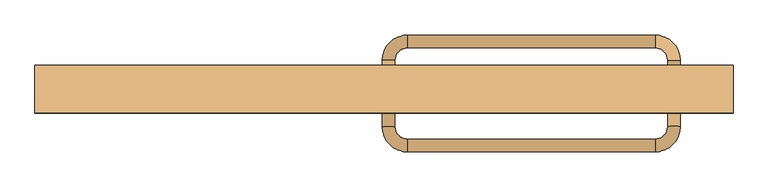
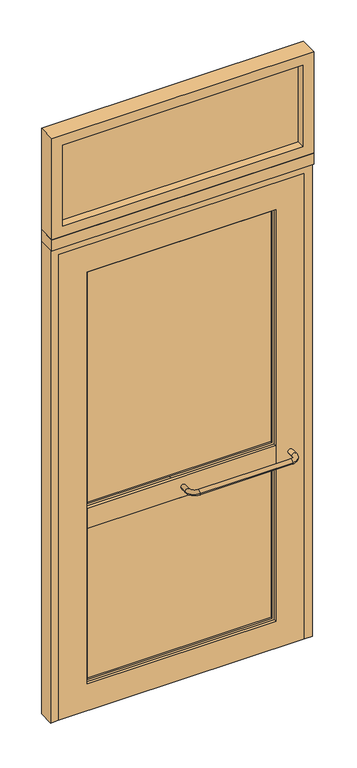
"""IFC4 building model written with IfcOpenShell, lengths in millimetres: door geometry, A3 Puerta batiente exterior VF superior : A3.1 Puerta batiente simple-exterior 110X260."""

from ifc_helpers import new_model, si_unit, point, frame, origin, place, context, project, spatial, polyline, circle_curve, ellipse_curve, trimmed, outline, extrude, source, transform, mapped, element, save
from ifc_brep_helpers import plane_surface, cylinder_surface, revolved_surface, advanced_brep


def door_cf841cee(model_context):
    return source(origin(), model_context, "Body", "SolidModel", [
        advanced_brep(
        [(17.0, 11.0, 855.0), (-3.0, 11.0, 855.0), (17.0, 41.0, 855.0), (-3.0, 41.0, 855.0), (37.0, 61.0, 855.0), (37.0, 81.0, 855.0), (427.0, 61.0, 855.0), (427.0, 81.0, 855.0), (447.0, 41.0, 855.0), (467.0, 41.0, 855.0), (447.0, 11.0, 855.0), (467.0, 11.0, 855.0)],
        [
            (0, 1, circle_curve(frame((7.0, 11.0, 855.0), z_axis=(0.0, -1.0, 0.0), x_axis=(-1.0, 0.0, 0.0)), 10.0)),
            (1, 0, circle_curve(frame((7.0, 11.0, 855.0), z_axis=(0.0, -1.0, 0.0), x_axis=(-1.0, 0.0, 0.0)), 10.0)),
            (0, 2),
            (2, 3, circle_curve(frame((7.0, 41.0, 855.0), z_axis=(0.0, -1.0, 0.0), x_axis=(-1.0, 0.0, 0.0)), 10.0)),
            (3, 1),
            (3, 2, circle_curve(frame((7.0, 41.0, 855.0), z_axis=(0.0, -1.0, 0.0), x_axis=(-1.0, 0.0, 0.0)), 10.0)),
            (4, 5, circle_curve(frame((37.0, 71.0, 855.0), z_axis=(-1.0, 0.0, 0.0), x_axis=(0.0, 1.0, 0.0)), 10.0)),
            (5, 3, circle_curve(frame((37.0, 41.0, 855.0), z_axis=(0.0, 0.0, 1.0), x_axis=(-1.0, 0.0, 0.0)), 40.0)),
            (2, 4, circle_curve(frame((37.0, 41.0, 855.0), z_axis=(0.0, 0.0, -1.0), x_axis=(-1.0, 0.0, 0.0)), 20.0)),
            (5, 4, circle_curve(frame((37.0, 71.0, 855.0), z_axis=(-1.0, 0.0, 0.0), x_axis=(0.0, 1.0, 0.0)), 10.0)),
            (4, 6),
            (6, 7, circle_curve(frame((427.0, 71.0, 855.0), z_axis=(-1.0, 0.0, 0.0), x_axis=(0.0, 1.0, 0.0)), 10.0)),
            (7, 5),
            (7, 6, circle_curve(frame((427.0, 71.0, 855.0), z_axis=(-1.0, 0.0, 0.0), x_axis=(0.0, 1.0, 0.0)), 10.0)),
            (8, 9, circle_curve(frame((457.0, 41.0, 855.0), z_axis=(0.0, 1.0, 0.0), x_axis=(1.0, 0.0, 0.0)), 10.0)),
            (9, 7, circle_curve(frame((427.0, 41.0, 855.0), z_axis=(0.0, 0.0, 1.0), x_axis=(0.0, 1.0, 0.0)), 40.0)),
            (6, 8, circle_curve(frame((427.0, 41.0, 855.0), z_axis=(0.0, 0.0, -1.0), x_axis=(0.0, 1.0, 0.0)), 20.0)),
            (9, 8, circle_curve(frame((457.0, 41.0, 855.0), z_axis=(0.0, 1.0, 0.0), x_axis=(1.0, 0.0, 0.0)), 10.0)),
            (10, 11, circle_curve(frame((457.0, 11.0, 855.0), z_axis=(0.0, -1.0, 0.0), x_axis=(1.0, 0.0, 0.0)), 10.0)),
            (11, 10, circle_curve(frame((457.0, 11.0, 855.0), z_axis=(0.0, -1.0, 0.0), x_axis=(1.0, 0.0, 0.0)), 10.0)),
            (8, 10),
            (11, 9),
        ],
        [
            plane_surface(frame((7.0, 11.0, 855.0), z_axis=(0.0, -1.0, 0.0), x_axis=(0.0, 0.0, 1.0))),
            cylinder_surface(frame((7.0, 11.0, 855.0), z_axis=(0.0, -1.0, 0.0), x_axis=(-1.0, 0.0, 0.0)), 10.0),
            revolved_surface(trimmed(ellipse_curve(frame((7.0, 41.0, 855.0), z_axis=(0.0, 1.0, 0.0), x_axis=(-1.0, 0.0, 0.0)), 10.0, 10.0), [point((-3.0, 41.0, 855.0))], [point((17.0, 41.0, 855.0))], True, "CARTESIAN"), (37.0, 41.0, 855.0), (0.0, 0.0, 1.0)),
            revolved_surface(trimmed(ellipse_curve(frame((7.0, 41.0, 855.0), z_axis=(0.0, 1.0, 0.0), x_axis=(-1.0, 0.0, 0.0)), 10.0, 10.0), [point((17.0, 41.0, 855.0))], [point((-3.0, 41.0, 855.0))], True, "CARTESIAN"), (37.0, 41.0, 855.0), (0.0, 0.0, 1.0)),
            cylinder_surface(frame((37.0, 71.0, 855.0), z_axis=(-1.0, 0.0, 0.0), x_axis=(0.0, 1.0, 0.0)), 10.0),
            revolved_surface(trimmed(ellipse_curve(frame((427.0, 71.0, 855.0), z_axis=(1.0, 0.0, 0.0), x_axis=(0.0, 1.0, 0.0)), 10.0, 10.0), [point((427.0, 81.0, 855.0))], [point((427.0, 61.0, 855.0))], True, "CARTESIAN"), (427.0, 41.0, 855.0), (0.0, 0.0, 1.0)),
            revolved_surface(trimmed(ellipse_curve(frame((427.0, 71.0, 855.0), z_axis=(1.0, 0.0, 0.0), x_axis=(0.0, 1.0, 0.0)), 10.0, 10.0), [point((427.0, 61.0, 855.0))], [point((427.0, 81.0, 855.0))], True, "CARTESIAN"), (427.0, 41.0, 855.0), (0.0, 0.0, 1.0)),
            plane_surface(frame((457.0, 11.0, 855.0), z_axis=(0.0, -1.0, 0.0), x_axis=(0.0, 0.0, 1.0))),
            cylinder_surface(frame((457.0, 41.0, 855.0), z_axis=(0.0, 1.0, 0.0), x_axis=(1.0, 0.0, 0.0)), 10.0),
        ],
        [
            (0, [[1, 2]]),
            (1, [[3, 4, 5, -1]]),
            (1, [[-5, 6, -3, -2]]),
            (2, [[7, 8, -4, 9]]),
            (3, [[10, -9, -6, -8]]),
            (4, [[11, 12, 13, -7]]),
            (4, [[-13, 14, -11, -10]]),
            (5, [[15, 16, -12, 17]]),
            (6, [[18, -17, -14, -16]]),
            (7, [[19, 20]]),
            (8, [[21, -20, 22, -15]]),
            (8, [[-22, -19, -21, -18]]),
        ],
    ),
        advanced_brep(
        [(17.0, -33.0, 855.0), (-3.0, -33.0, 855.0), (-3.0, -63.0, 855.0), (17.0, -63.0, 855.0), (37.0, -83.0, 855.0), (37.0, -103.0, 855.0), (427.0, -103.0, 855.0), (427.0, -83.0, 855.0), (447.0, -63.0, 855.0), (467.0, -63.0, 855.0), (447.0, -33.0, 855.0), (467.0, -33.0, 855.0)],
        [
            (0, 1, circle_curve(frame((7.0, -33.0, 855.0), z_axis=(0.0, 1.0, 0.0), x_axis=(-1.0, 0.0, 0.0)), 10.0)),
            (1, 0, circle_curve(frame((7.0, -33.0, 855.0), z_axis=(0.0, 1.0, 0.0), x_axis=(-1.0, 0.0, 0.0)), 10.0)),
            (1, 2),
            (2, 3, circle_curve(frame((7.0, -63.0, 855.0), z_axis=(0.0, 1.0, 0.0), x_axis=(-1.0, 0.0, 0.0)), 10.0)),
            (3, 0),
            (3, 2, circle_curve(frame((7.0, -63.0, 855.0), z_axis=(0.0, 1.0, 0.0), x_axis=(-1.0, 0.0, 0.0)), 10.0)),
            (4, 3, circle_curve(frame((37.0, -63.0, 855.0), z_axis=(0.0, 0.0, -1.0), x_axis=(-1.0, 0.0, 0.0)), 20.0)),
            (2, 5, circle_curve(frame((37.0, -63.0, 855.0), z_axis=(0.0, 0.0, 1.0), x_axis=(-1.0, 0.0, 0.0)), 40.0)),
            (5, 4, circle_curve(frame((37.0, -93.0, 855.0), z_axis=(-1.0, 0.0, 0.0), x_axis=(0.0, -1.0, 0.0)), 10.0)),
            (4, 5, circle_curve(frame((37.0, -93.0, 855.0), z_axis=(-1.0, 0.0, 0.0), x_axis=(0.0, -1.0, 0.0)), 10.0)),
            (5, 6),
            (6, 7, circle_curve(frame((427.0, -93.0, 855.0), z_axis=(-1.0, 0.0, 0.0), x_axis=(0.0, -1.0, 0.0)), 10.0)),
            (7, 4),
            (7, 6, circle_curve(frame((427.0, -93.0, 855.0), z_axis=(-1.0, 0.0, 0.0), x_axis=(0.0, -1.0, 0.0)), 10.0)),
            (8, 7, circle_curve(frame((427.0, -63.0, 855.0), z_axis=(0.0, 0.0, -1.0), x_axis=(0.0, -1.0, 0.0)), 20.0)),
            (6, 9, circle_curve(frame((427.0, -63.0, 855.0), z_axis=(0.0, 0.0, 1.0), x_axis=(0.0, -1.0, 0.0)), 40.0)),
            (9, 8, circle_curve(frame((457.0, -63.0, 855.0), z_axis=(0.0, -1.0, 0.0), x_axis=(1.0, 0.0, 0.0)), 10.0)),
            (8, 9, circle_curve(frame((457.0, -63.0, 855.0), z_axis=(0.0, -1.0, 0.0), x_axis=(1.0, 0.0, 0.0)), 10.0)),
            (10, 11, circle_curve(frame((457.0, -33.0, 855.0), z_axis=(0.0, 1.0, 0.0), x_axis=(1.0, 0.0, 0.0)), 10.0)),
            (11, 10, circle_curve(frame((457.0, -33.0, 855.0), z_axis=(0.0, 1.0, 0.0), x_axis=(1.0, 0.0, 0.0)), 10.0)),
            (9, 11),
            (10, 8),
        ],
        [
            plane_surface(frame((7.0, -33.0, 855.0), z_axis=(0.0, 1.0, 0.0), x_axis=(0.0, 0.0, 1.0))),
            cylinder_surface(frame((7.0, -33.0, 855.0), z_axis=(0.0, 1.0, 0.0), x_axis=(-1.0, 0.0, 0.0)), 10.0),
            revolved_surface(trimmed(ellipse_curve(frame((7.0, -63.0, 855.0), z_axis=(0.0, 1.0, 0.0), x_axis=(-1.0, 0.0, 0.0)), 10.0, 10.0), [point((-3.0, -63.0, 855.0))], [point((17.0, -63.0, 855.0))], True, "CARTESIAN"), (37.0, -63.0, 855.0), (0.0, 0.0, 1.0)),
            revolved_surface(trimmed(ellipse_curve(frame((7.0, -63.0, 855.0), z_axis=(0.0, 1.0, 0.0), x_axis=(-1.0, 0.0, 0.0)), 10.0, 10.0), [point((17.0, -63.0, 855.0))], [point((-3.0, -63.0, 855.0))], True, "CARTESIAN"), (37.0, -63.0, 855.0), (0.0, 0.0, 1.0)),
            cylinder_surface(frame((37.0, -93.0, 855.0), z_axis=(-1.0, 0.0, 0.0), x_axis=(0.0, -1.0, 0.0)), 10.0),
            revolved_surface(trimmed(ellipse_curve(frame((427.0, -93.0, 855.0), z_axis=(-1.0, 0.0, 0.0), x_axis=(0.0, -1.0, 0.0)), 10.0, 10.0), [point((427.0, -103.0, 855.0))], [point((427.0, -83.0, 855.0))], True, "CARTESIAN"), (427.0, -63.0, 855.0), (0.0, 0.0, 1.0)),
            revolved_surface(trimmed(ellipse_curve(frame((427.0, -93.0, 855.0), z_axis=(-1.0, 0.0, 0.0), x_axis=(0.0, -1.0, 0.0)), 10.0, 10.0), [point((427.0, -83.0, 855.0))], [point((427.0, -103.0, 855.0))], True, "CARTESIAN"), (427.0, -63.0, 855.0), (0.0, 0.0, 1.0)),
            plane_surface(frame((457.0, -33.0, 855.0), z_axis=(0.0, 1.0, 0.0), x_axis=(0.0, 0.0, 1.0))),
            cylinder_surface(frame((457.0, -63.0, 855.0), z_axis=(0.0, -1.0, 0.0), x_axis=(1.0, 0.0, 0.0)), 10.0),
        ],
        [
            (0, [[1, 2]]),
            (1, [[-2, 3, 4, 5]]),
            (1, [[-1, -5, 6, -3]]),
            (2, [[7, -4, 8, 9]]),
            (3, [[-8, -6, -7, 10]]),
            (4, [[-9, 11, 12, 13]]),
            (4, [[-10, -13, 14, -11]]),
            (5, [[15, -12, 16, 17]]),
            (6, [[-16, -14, -15, 18]]),
            (7, [[19, 20]]),
            (8, [[-17, 21, -19, 22]]),
            (8, [[-18, -22, -20, -21]]),
        ],
    ),
        extrude(outline(polyline([(550.0, 33.0), (550.0, -42.0), (-550.0, -42.0), (-550.0, 33.0), (550.0, 33.0)])), frame((0.0, 0.0, 2100.0), z_axis=(0.0, 0.0, 1.0), x_axis=(1.0, 0.0, 0.0)), (0.0, 0.0, 1.0), 50.0),
        extrude(outline(polyline([(2100.0, 550.0), (2100.0, -550.0), (0.0, -550.0), (0.0, -517.0), (2067.0, -517.0), (2067.0, 517.0), (0.0, 517.0), (0.0, 550.0), (2100.0, 550.0)])), frame((0.0, -33.0, 0.0), z_axis=(0.0, 1.0, 0.0), x_axis=(0.0, 0.0, 1.0)), (0.0, 0.0, 1.0), 66.0),
        extrude(outline(polyline([(2067.0, -517.0), (0.0, -517.0), (0.0, 517.0), (2067.0, 517.0), (2067.0, -517.0)]), holes=[polyline([(1947.0, -397.0), (1947.0, 397.0), (120.0, 397.0), (120.0, -397.0), (1947.0, -397.0)])]), frame((0.0, -33.0, 0.0), z_axis=(0.0, 1.0, 0.0), x_axis=(0.0, 0.0, 1.0)), (0.0, 0.0, 1.0), 44.0),
        extrude(outline(polyline([(397.0, 11.0), (397.0, -33.0), (-397.0, -33.0), (-397.0, 11.0), (397.0, 11.0)])), frame((0.0, 0.0, 810.0), z_axis=(0.0, 0.0, 1.0), x_axis=(1.0, 0.0, 0.0)), (0.0, 0.0, 1.0), 90.0),
        extrude(outline(polyline([(1947.0, -397.0), (900.0, -397.0), (900.0, 397.0), (1947.0, 397.0), (1947.0, -397.0)]), holes=[polyline([(1937.0, -387.0), (1937.0, 387.0), (910.0, 387.0), (910.0, -387.0), (1937.0, -387.0)])]), frame((0.0, -21.0, 0.0), z_axis=(0.0, 1.0, 0.0), x_axis=(0.0, 0.0, 1.0)), (0.0, 0.0, 1.0), 20.0),
        extrude(outline(polyline([(810.0, -397.0), (120.0, -397.0), (120.0, 397.0), (810.0, 397.0), (810.0, -397.0)]), holes=[polyline([(800.0, -387.0), (800.0, 387.0), (130.0, 387.0), (130.0, -387.0), (800.0, -387.0)])]), frame((0.0, -21.0, 0.0), z_axis=(0.0, 1.0, 0.0), x_axis=(0.0, 0.0, 1.0)), (0.0, 0.0, 1.0), 20.0),
        extrude(outline(polyline([(387.0, -8.0), (387.0, -14.0), (-387.0, -14.0), (-387.0, -8.0), (387.0, -8.0)])), frame((0.0, 0.0, 910.0), z_axis=(0.0, 0.0, 1.0), x_axis=(1.0, 0.0, 0.0)), (0.0, 0.0, 1.0), 1027.0),
        extrude(outline(polyline([(387.0, -8.0), (387.0, -14.0), (-387.0, -14.0), (-387.0, -8.0), (387.0, -8.0)])), frame((0.0, 0.0, 130.0), z_axis=(0.0, 0.0, 1.0), x_axis=(1.0, 0.0, 0.0)), (0.0, 0.0, 1.0), 670.0),
        extrude(outline(polyline([(505.0, -1.5), (505.0, -7.5), (-505.0, -7.5), (-505.0, -1.5), (505.0, -1.5)])), frame((0.0, 0.0, 2195.0), z_axis=(0.0, 0.0, 1.0), x_axis=(1.0, 0.0, 0.0)), (0.0, 0.0, 1.0), 360.0),
        extrude(outline(polyline([(2600.0, -550.0), (2150.0, -550.0), (2150.0, 550.0), (2600.0, 550.0), (2600.0, -550.0)]), holes=[polyline([(2555.0, -505.0), (2555.0, 505.0), (2195.0, 505.0), (2195.0, -505.0), (2555.0, -505.0)])]), frame((0.0, -42.0, 0.0), z_axis=(0.0, 1.0, 0.0), x_axis=(0.0, 0.0, 1.0)), (0.0, 0.0, 1.0), 75.0),
    ])


if __name__ == "__main__":
    model = new_model("IFC4")
    model_context = context("Model", 3, world=origin())
    ifc_project = project(units=[si_unit("LENGTHUNIT", "METRE", prefix="MILLI")], contexts=[model_context])
    site = spatial("IfcSite", under=ifc_project)
    building = spatial("IfcBuilding", under=site)
    placement = place(None, origin())
    door_shape = door_cf841cee(model_context)
    element("IfcDoor", 1, ObjectType="A3 Puerta batiente exterior VF superior : A3.1 Puerta batiente simple-exterior 110X260", at=placement, inside=building, context=model_context, shape_type="MappedRepresentation", body=[
        mapped(door_shape, transform((0.0, 0.0, 0.0), x_axis=(1.0, 0.0, 0.0), y_axis=(0.0, 1.0, 0.0), z_axis=(0.0, 0.0, 1.0))),
    ])
    save(model, "model.ifc")
